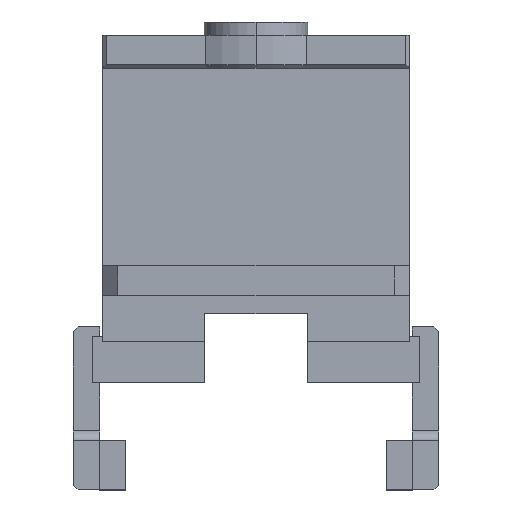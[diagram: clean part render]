
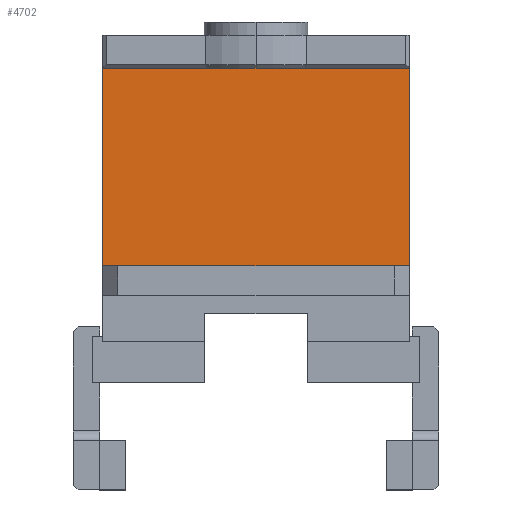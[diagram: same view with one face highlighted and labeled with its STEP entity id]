
A CAD part, top view. The second image highlights one B-rep face of the part: STEP entity #4702.
In plain terms, the highlighted planar face has unit normal (0, 0, 1).
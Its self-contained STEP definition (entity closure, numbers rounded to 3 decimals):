
#58 = VERTEX_POINT ( 'NONE', #3514 ) ;
#276 = EDGE_CURVE ( 'NONE', #58, #3915, #943, .T. ) ;
#400 = ORIENTED_EDGE ( 'NONE', *, *, #276, .T. ) ;
#478 = LINE ( 'NONE', #566, #3574 ) ;
#533 = CARTESIAN_POINT ( 'NONE',  ( 46.5, -27.75, 12. ) ) ;
#562 = VERTEX_POINT ( 'NONE', #1939 ) ;
#566 = CARTESIAN_POINT ( 'NONE',  ( -46.5, -27.75, 12. ) ) ;
#943 = LINE ( 'NONE', #533, #1314 ) ;
#971 = DIRECTION ( 'NONE',  ( 0., 1., 0. ) ) ;
#1068 = EDGE_CURVE ( 'NONE', #562, #2513, #478, .T. ) ;
#1097 = CARTESIAN_POINT ( 'NONE',  ( 46.5, -27.75, 12. ) ) ;
#1168 = EDGE_CURVE ( 'NONE', #3915, #2513, #3216, .T. ) ;
#1289 = CARTESIAN_POINT ( 'NONE',  ( 46.5, 32.25, 12. ) ) ;
#1314 = VECTOR ( 'NONE', #971, 1000. ) ;
#1655 = FACE_OUTER_BOUND ( 'NONE', #3008, .T. ) ;
#1679 = DIRECTION ( 'NONE',  ( -1., 0., 0. ) ) ;
#1714 = CARTESIAN_POINT ( 'NONE',  ( -46.5, 32.25, 12. ) ) ;
#1751 = DIRECTION ( 'NONE',  ( 0., 1., 0. ) ) ;
#1939 = CARTESIAN_POINT ( 'NONE',  ( -46.5, -27.75, 12. ) ) ;
#2062 = AXIS2_PLACEMENT_3D ( 'NONE', #4781, #3621, #1679 ) ;
#2086 = ORIENTED_EDGE ( 'NONE', *, *, #1068, .F. ) ;
#2147 = CARTESIAN_POINT ( 'NONE',  ( 46.5, 32.25, 12. ) ) ;
#2306 = ORIENTED_EDGE ( 'NONE', *, *, #4002, .F. ) ;
#2513 = VERTEX_POINT ( 'NONE', #1714 ) ;
#2672 = LINE ( 'NONE', #1097, #4621 ) ;
#2839 = DIRECTION ( 'NONE',  ( -1., 0., 0. ) ) ;
#3008 = EDGE_LOOP ( 'NONE', ( #4086, #2086, #2306, #400 ) ) ;
#3194 = PLANE ( 'NONE',  #2062 ) ;
#3216 = LINE ( 'NONE', #1289, #4966 ) ;
#3514 = CARTESIAN_POINT ( 'NONE',  ( 46.5, -27.75, 12. ) ) ;
#3574 = VECTOR ( 'NONE', #1751, 1000. ) ;
#3621 = DIRECTION ( 'NONE',  ( 0., 0., -1. ) ) ;
#3740 = DIRECTION ( 'NONE',  ( -1., 0., 0. ) ) ;
#3915 = VERTEX_POINT ( 'NONE', #2147 ) ;
#4002 = EDGE_CURVE ( 'NONE', #58, #562, #2672, .T. ) ;
#4086 = ORIENTED_EDGE ( 'NONE', *, *, #1168, .T. ) ;
#4621 = VECTOR ( 'NONE', #3740, 1000. ) ;
#4702 = ADVANCED_FACE ( 'NONE', ( #1655 ), #3194, .F. ) ;
#4781 = CARTESIAN_POINT ( 'NONE',  ( 46.5, -27.75, 12. ) ) ;
#4966 = VECTOR ( 'NONE', #2839, 1000. ) ;
